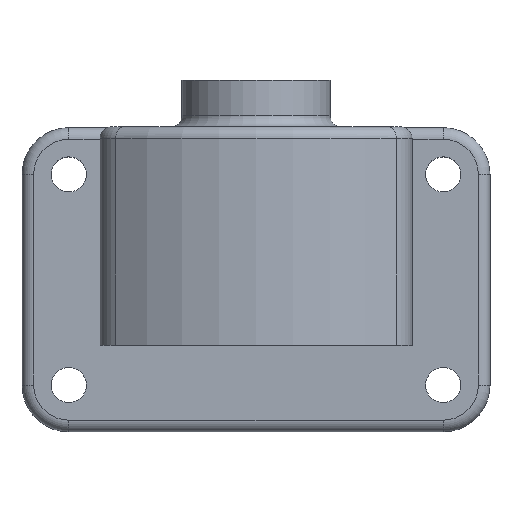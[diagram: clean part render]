
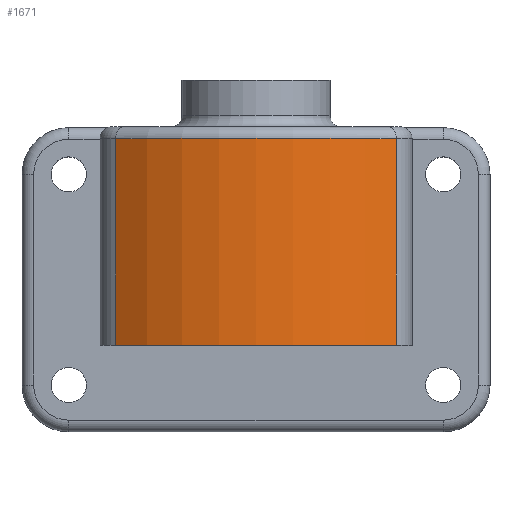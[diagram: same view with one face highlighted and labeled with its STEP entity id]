
A CAD part, top view. The second image highlights one B-rep face of the part: STEP entity #1671.
In plain terms, the highlighted cylindrical face has radius 60 mm (diameter 120 mm), a partial arc.
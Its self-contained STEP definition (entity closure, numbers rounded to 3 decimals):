
#87=CYLINDRICAL_SURFACE('',#1885,60.);
#173=LINE('',#3208,#255);
#177=LINE('',#3219,#259);
#255=VECTOR('',#2366,53.);
#259=VECTOR('',#2378,53.);
#411=FACE_OUTER_BOUND('',#534,.T.);
#534=EDGE_LOOP('',(#1464,#1465,#1466,#1467));
#693=CIRCLE('',#1859,60.);
#703=CIRCLE('',#1886,60.);
#836=VERTEX_POINT('',#3166);
#837=VERTEX_POINT('',#3170);
#842=VERTEX_POINT('',#3206);
#845=VERTEX_POINT('',#3218);
#1046=EDGE_CURVE('',#837,#836,#693,.T.);
#1064=EDGE_CURVE('',#842,#837,#173,.T.);
#1069=EDGE_CURVE('',#836,#845,#177,.T.);
#1071=EDGE_CURVE('',#842,#845,#703,.T.);
#1464=ORIENTED_EDGE('',*,*,#1046,.F.);
#1465=ORIENTED_EDGE('',*,*,#1064,.F.);
#1466=ORIENTED_EDGE('',*,*,#1071,.T.);
#1467=ORIENTED_EDGE('',*,*,#1069,.F.);
#1671=ADVANCED_FACE('',(#411),#87,.T.);
#1859=AXIS2_PLACEMENT_3D('',#3172,#2314,#2315);
#1885=AXIS2_PLACEMENT_3D('',#3221,#2381,#2382);
#1886=AXIS2_PLACEMENT_3D('',#3222,#2383,#2384);
#2314=DIRECTION('center_axis',(0.,1.,0.));
#2315=DIRECTION('ref_axis',(0.,0.,1.));
#2366=DIRECTION('',(0.,1.,0.));
#2378=DIRECTION('',(0.,-1.,0.));
#2381=DIRECTION('center_axis',(0.,1.,0.));
#2382=DIRECTION('ref_axis',(-0.667,0.,0.745));
#2383=DIRECTION('center_axis',(0.,1.,0.));
#2384=DIRECTION('ref_axis',(-0.667,0.,0.745));
#3166=CARTESIAN_POINT('',(36.,53.,48.));
#3170=CARTESIAN_POINT('',(-36.,53.,48.));
#3172=CARTESIAN_POINT('Origin',(0.,53.,0.));
#3206=CARTESIAN_POINT('',(-36.,0.,48.));
#3208=CARTESIAN_POINT('',(-36.,0.,48.));
#3218=CARTESIAN_POINT('',(36.,0.,48.));
#3219=CARTESIAN_POINT('',(36.,0.,48.));
#3221=CARTESIAN_POINT('Origin',(0.,0.,0.));
#3222=CARTESIAN_POINT('Origin',(0.,0.,0.));
